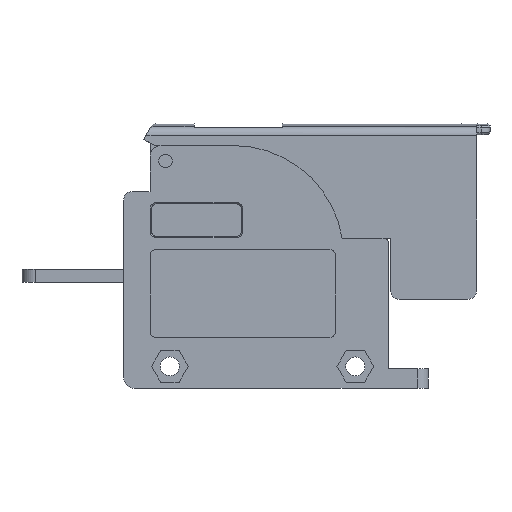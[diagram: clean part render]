
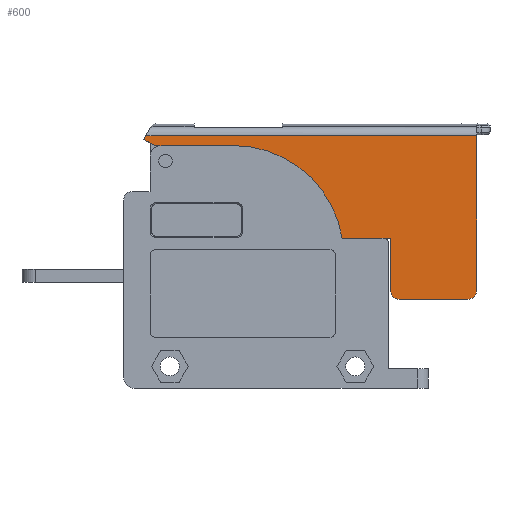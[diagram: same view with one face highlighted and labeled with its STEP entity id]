
A CAD part, left-side view. The second image highlights one B-rep face of the part: STEP entity #600.
In plain terms, the highlighted planar face has unit normal (-1, 0, 0).
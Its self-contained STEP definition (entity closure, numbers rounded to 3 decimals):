
#310=CIRCLE('',#5682,25.);
#374=CIRCLE('',#5874,2.);
#375=CIRCLE('',#5875,2.);
#600=ADVANCED_FACE('',(#1057),#834,.T.);
#834=PLANE('',#5876);
#1057=FACE_OUTER_BOUND('',#1359,.T.);
#1359=EDGE_LOOP('',(#2489,#2490,#2491,#2492,#2493,#2494,#2495,#2496,#2497,
#2498,#2499,#2500,#2501));
#2489=ORIENTED_EDGE('',*,*,#3835,.F.);
#2490=ORIENTED_EDGE('',*,*,#3640,.T.);
#2491=ORIENTED_EDGE('',*,*,#4157,.T.);
#2492=ORIENTED_EDGE('',*,*,#4158,.T.);
#2493=ORIENTED_EDGE('',*,*,#4159,.T.);
#2494=ORIENTED_EDGE('',*,*,#4160,.T.);
#2495=ORIENTED_EDGE('',*,*,#4161,.T.);
#2496=ORIENTED_EDGE('',*,*,#4146,.T.);
#2497=ORIENTED_EDGE('',*,*,#4131,.F.);
#2498=ORIENTED_EDGE('',*,*,#4128,.F.);
#2499=ORIENTED_EDGE('',*,*,#4090,.T.);
#2500=ORIENTED_EDGE('',*,*,#3781,.T.);
#2501=ORIENTED_EDGE('',*,*,#3838,.F.);
#3116=VERTEX_POINT('',#7529);
#3117=VERTEX_POINT('',#7530);
#3228=VERTEX_POINT('',#7814);
#3229=VERTEX_POINT('',#7816);
#3271=VERTEX_POINT('',#7922);
#3430=VERTEX_POINT('',#8577);
#3453=VERTEX_POINT('',#8648);
#3454=VERTEX_POINT('',#8653);
#3460=VERTEX_POINT('',#8681);
#3469=VERTEX_POINT('',#8739);
#3470=VERTEX_POINT('',#8741);
#3471=VERTEX_POINT('',#8743);
#3472=VERTEX_POINT('',#8745);
#3640=EDGE_CURVE('',#3116,#3117,#4430,.T.);
#3781=EDGE_CURVE('',#3229,#3228,#4545,.T.);
#3835=EDGE_CURVE('',#3116,#3271,#4581,.T.);
#3838=EDGE_CURVE('',#3271,#3228,#310,.T.);
#4090=EDGE_CURVE('',#3430,#3229,#4773,.T.);
#4128=EDGE_CURVE('',#3430,#3453,#4805,.T.);
#4131=EDGE_CURVE('',#3453,#3454,#4807,.T.);
#4146=EDGE_CURVE('',#3460,#3454,#4816,.T.);
#4157=EDGE_CURVE('',#3117,#3469,#4821,.T.);
#4158=EDGE_CURVE('',#3469,#3470,#374,.T.);
#4159=EDGE_CURVE('',#3470,#3471,#4822,.T.);
#4160=EDGE_CURVE('',#3471,#3472,#375,.T.);
#4161=EDGE_CURVE('',#3472,#3460,#4823,.T.);
#4430=LINE('',#7528,#5010);
#4545=LINE('',#7815,#5125);
#4581=LINE('',#7921,#5161);
#4773=LINE('',#8576,#5353);
#4805=LINE('',#8647,#5385);
#4807=LINE('',#8652,#5387);
#4816=LINE('',#8680,#5396);
#4821=LINE('',#8738,#5401);
#4822=LINE('',#8742,#5402);
#4823=LINE('',#8746,#5403);
#5010=VECTOR('',#6045,1.);
#5125=VECTOR('',#6278,1.);
#5161=VECTOR('',#6370,1.);
#5353=VECTOR('',#6874,1.);
#5385=VECTOR('',#6938,1.);
#5387=VECTOR('',#6944,1.);
#5396=VECTOR('',#6979,1.);
#5401=VECTOR('',#6996,1.);
#5402=VECTOR('',#6999,1.);
#5403=VECTOR('',#7002,1.);
#5682=AXIS2_PLACEMENT_3D('',#7927,#6375,#6376);
#5874=AXIS2_PLACEMENT_3D('',#8740,#6997,#6998);
#5875=AXIS2_PLACEMENT_3D('',#8744,#7000,#7001);
#5876=AXIS2_PLACEMENT_3D('',#8747,#7003,#7004);
#6045=DIRECTION('',(0.,-1.,0.));
#6278=DIRECTION('',(0.,-1.,0.));
#6370=DIRECTION('',(0.,1.,0.));
#6375=DIRECTION('',(-1.,0.,0.));
#6376=DIRECTION('',(0.,-1.,0.));
#6874=DIRECTION('',(0.,-1.,0.));
#6938=DIRECTION('',(0.,0.866,0.5));
#6944=DIRECTION('',(0.,-0.5,0.866));
#6979=DIRECTION('',(0.,1.,0.));
#6996=DIRECTION('',(0.,0.,-1.));
#6997=DIRECTION('',(-1.,0.,0.));
#6998=DIRECTION('',(0.,-1.,0.));
#6999=DIRECTION('',(0.,-1.,0.));
#7000=DIRECTION('',(-1.,0.,0.));
#7001=DIRECTION('',(0.,-1.,0.));
#7002=DIRECTION('',(0.,0.,1.));
#7003=DIRECTION('',(-1.,0.,0.));
#7004=DIRECTION('',(0.,0.,-1.));
#7528=CARTESIAN_POINT('',(-99.55,8.4,19.55));
#7529=CARTESIAN_POINT('',(-99.55,-5.5,19.55));
#7530=CARTESIAN_POINT('',(-99.55,-7.,19.55));
#7814=CARTESIAN_POINT('',(-99.55,28.654,40.55));
#7815=CARTESIAN_POINT('',(-99.55,8.4,40.55));
#7816=CARTESIAN_POINT('',(-99.55,45.,40.55));
#7921=CARTESIAN_POINT('',(-99.55,-13.584,19.55));
#7922=CARTESIAN_POINT('',(-99.55,3.976,19.55));
#7927=CARTESIAN_POINT('',(-99.55,28.654,15.55));
#8576=CARTESIAN_POINT('',(-99.55,8.4,40.55));
#8577=CARTESIAN_POINT('',(-99.55,46.462,40.55));
#8647=CARTESIAN_POINT('',(-99.55,18.738,24.544));
#8648=CARTESIAN_POINT('',(-99.55,48.917,41.967));
#8652=CARTESIAN_POINT('',(-99.55,38.579,59.874));
#8653=CARTESIAN_POINT('',(-99.55,48.417,42.834));
#8680=CARTESIAN_POINT('',(-99.55,39.716,42.834));
#8681=CARTESIAN_POINT('',(-99.55,-26.5,42.834));
#8738=CARTESIAN_POINT('',(-99.55,-7.,17.75));
#8739=CARTESIAN_POINT('',(-99.55,-7.,7.75));
#8740=CARTESIAN_POINT('',(-99.55,-9.,7.75));
#8741=CARTESIAN_POINT('',(-99.55,-9.,5.75));
#8742=CARTESIAN_POINT('',(-99.55,-6.5,5.75));
#8743=CARTESIAN_POINT('',(-99.55,-24.5,5.75));
#8744=CARTESIAN_POINT('',(-99.55,-24.5,7.75));
#8745=CARTESIAN_POINT('',(-99.55,-26.5,7.75));
#8746=CARTESIAN_POINT('',(-99.55,-26.5,42.55));
#8747=CARTESIAN_POINT('',(-99.55,8.4,42.45));
